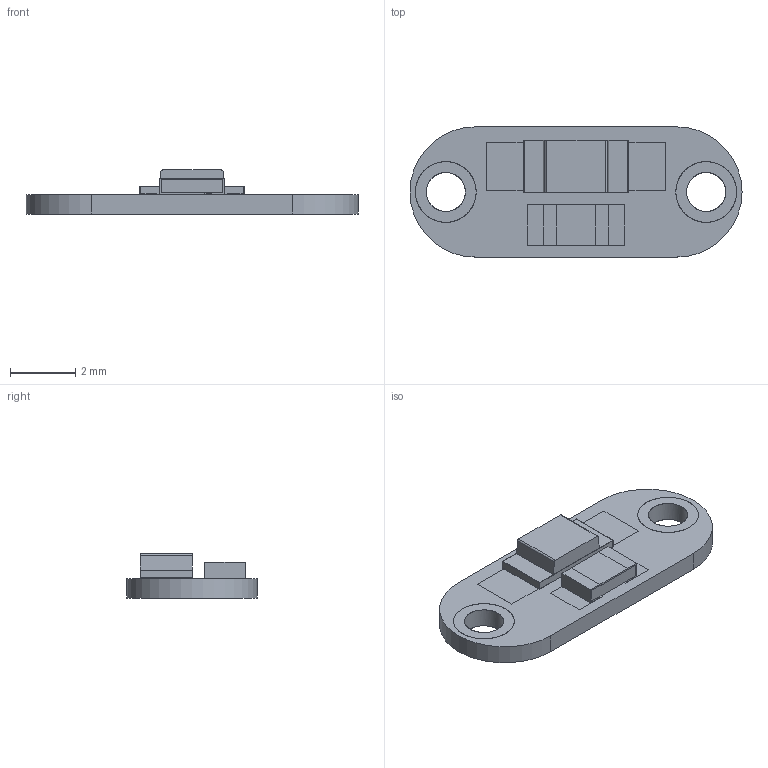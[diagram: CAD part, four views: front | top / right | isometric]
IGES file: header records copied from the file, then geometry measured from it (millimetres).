
Global section: file name: Filename.iges; native system: Open CASCADE 7.4; preprocessor: Open CASCADE IGES processor 7.4; date: 20200820.123255; units: millimetre
Bounding box: 10.2 x 4 x 1.36 mm (x, y, z)
Surface area: 168.9 mm2 (no closed solid volume)
Topology: 0 solids, 0 shells, 423 faces, 2106 edges, 2086 vertices
Faces by surface type: plane 293, bspline 116, revolution 14
